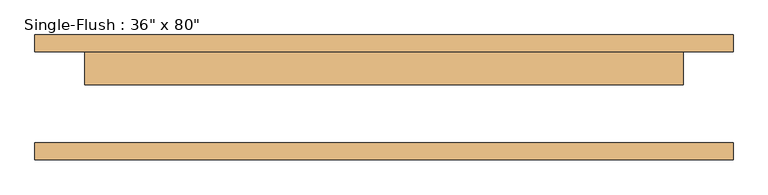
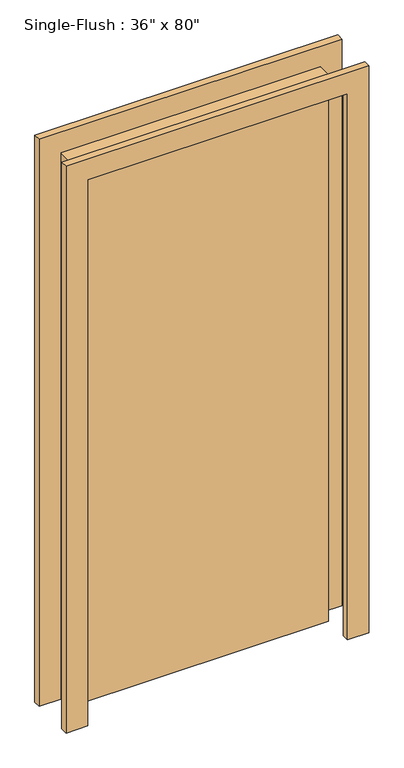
"""IFC4 building model written with IfcOpenShell, lengths in millimetres: door geometry."""

from ifc_helpers import new_model, si_unit, frame, origin, origin_with_axes, place, context, project, spatial, polyline, outline, extrude, source, transform, mapped, element, save


def door_ad1ac78c(model_context):
    return source(origin(), model_context, "Body", "SweptSolid", [
        extrude(outline(polyline([(2108.2, -533.4), (0.0, -533.4), (0.0, -457.2), (2032.0, -457.2), (2032.0, 457.2), (0.0, 457.2), (0.0, 533.4), (2108.2, 533.4), (2108.2, -533.4)])), frame((0.0, 69.85, 0.0), z_axis=(0.0, 1.0, 0.0), x_axis=(0.0, 0.0, 1.0)), (0.0, 0.0, 1.0), 25.4),
        extrude(outline(polyline([(2108.2, 533.4), (2108.2, -533.4), (0.0, -533.4), (0.0, -457.2), (2032.0, -457.2), (2032.0, 457.2), (0.0, 457.2), (0.0, 533.4), (2108.2, 533.4)])), frame((0.0, -95.25, 0.0), z_axis=(0.0, 1.0, 0.0), x_axis=(0.0, 0.0, 1.0)), (0.0, 0.0, 1.0), 25.4),
        extrude(outline(polyline([(457.2, 19.05), (-457.2, 19.05), (-457.2, 69.85), (457.2, 69.85), (457.2, 19.05)])), origin_with_axes(), (0.0, 0.0, 1.0), 2032.0),
    ])


if __name__ == "__main__":
    model = new_model("IFC4")
    model_context = context("Model", 3, world=origin())
    ifc_project = project(units=[si_unit("LENGTHUNIT", "METRE", prefix="MILLI")], contexts=[model_context])
    site = spatial("IfcSite", under=ifc_project)
    building = spatial("IfcBuilding", under=site)
    placement = place(None, origin())
    door_shape = door_ad1ac78c(model_context)
    element("IfcDoor", 1, ObjectType="Single-Flush : 36\" x 80\"", at=placement, inside=building, context=model_context, shape_type="MappedRepresentation", body=[
        mapped(door_shape, transform((0.0, 0.0, 0.0), x_axis=(1.0, 0.0, 0.0), y_axis=(0.0, 1.0, 0.0), z_axis=(0.0, 0.0, 1.0))),
    ])
    save(model, "model.ifc")
